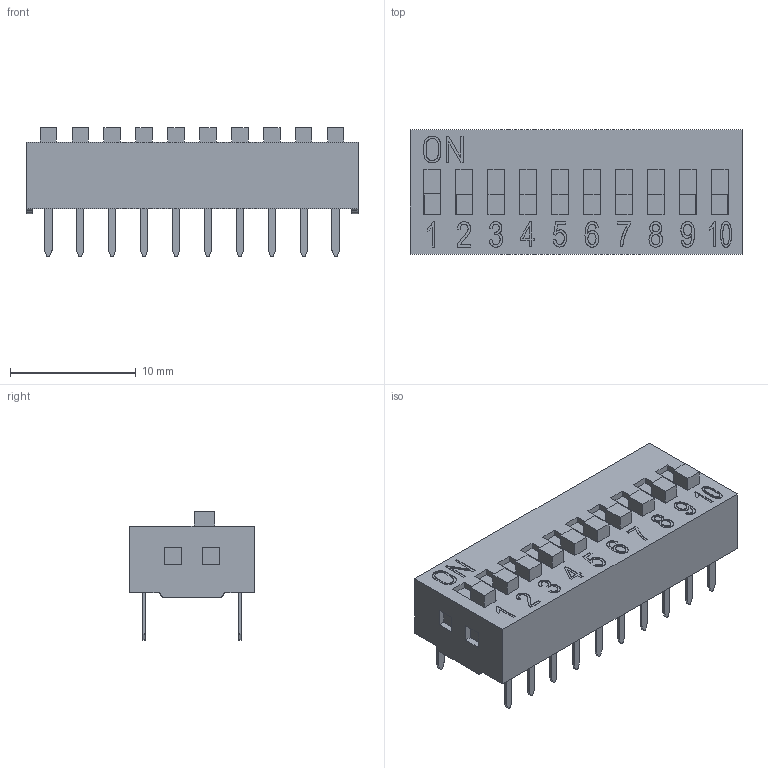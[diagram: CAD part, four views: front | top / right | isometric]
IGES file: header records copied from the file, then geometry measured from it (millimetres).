
Global section: file name: Filename.iges; native system: Open CASCADE 7.3; preprocessor: Open CASCADE IGES processor 7.3; date: 20200811.075220; units: millimetre
Bounding box: 26.4 x 9.9 x 10.25 mm (x, y, z)
Surface area: 2812 mm2 (no closed solid volume)
Topology: 0 solids, 0 shells, 753 faces, 3834 edges, 3834 vertices
Faces by surface type: plane 567, bspline 98, revolution 88
